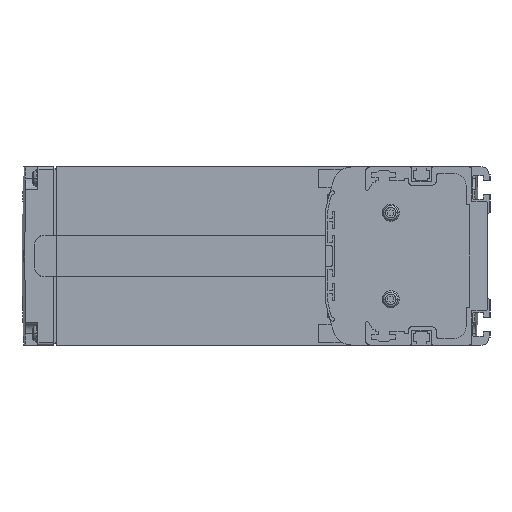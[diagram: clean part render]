
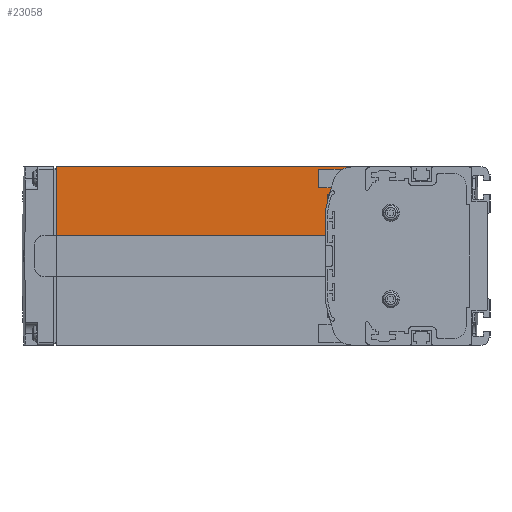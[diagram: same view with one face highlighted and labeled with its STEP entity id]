
A CAD part, left-side view. The second image highlights one B-rep face of the part: STEP entity #23058.
In plain terms, the highlighted planar face has unit normal (-1, 0, 0).
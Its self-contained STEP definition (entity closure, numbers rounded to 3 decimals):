
#1232=DIRECTION('',(0.,-1.,0.));
#1233=VECTOR('',#1232,0.571);
#1234=CARTESIAN_POINT('',(3.,71.,27.));
#1235=LINE('',#1234,#1233);
#1244=DIRECTION('',(0.,0.,1.));
#1245=VECTOR('',#1244,2.224);
#1246=CARTESIAN_POINT('',(3.,71.,24.776));
#1247=LINE('',#1246,#1245);
#1264=DIRECTION('',(0.,0.,-1.));
#1265=VECTOR('',#1264,29.9);
#1266=CARTESIAN_POINT('',(3.,190.,39.));
#1267=LINE('',#1266,#1265);
#4679=DIRECTION('',(0.,-1.,0.));
#4680=VECTOR('',#4679,129.245);
#4681=CARTESIAN_POINT('',(3.,190.,39.));
#4682=LINE('',#4681,#4680);
#5957=DIRECTION('',(0.,0.,-1.));
#5958=VECTOR('',#5957,10.723);
#5959=CARTESIAN_POINT('',(3.,72.,19.823));
#5960=LINE('',#5959,#5958);
#5973=CARTESIAN_POINT('',(3.,70.,19.823));
#5974=DIRECTION('',(1.,0.,0.));
#5975=DIRECTION('',(0.,1.,0.));
#5976=AXIS2_PLACEMENT_3D('',#5973,#5974,#5975);
#5982=CARTESIAN_POINT('',(3.,-6.765,6.));
#5983=DIRECTION('',(1.,0.,0.));
#5984=DIRECTION('',(0.,0.984,0.177));
#5985=AXIS2_PLACEMENT_3D('',#5982,#5983,#5984);
#5987=CARTESIAN_POINT('',(3.,-6.765,6.));
#5988=DIRECTION('',(1.,0.,0.));
#5989=DIRECTION('',(0.,0.965,0.263));
#5990=AXIS2_PLACEMENT_3D('',#5987,#5988,#5989);
#5996=CARTESIAN_POINT('',(3.,60.755,31.));
#5997=DIRECTION('',(-1.,0.,0.));
#5998=DIRECTION('',(0.,0.,1.));
#5999=AXIS2_PLACEMENT_3D('',#5996,#5997,#5998);
#10931=DIRECTION('',(0.,-1.,0.));
#10932=VECTOR('',#10931,118.);
#10933=CARTESIAN_POINT('',(3.,190.,9.1));
#10934=LINE('',#10933,#10932);
#17169=CARTESIAN_POINT('',(3.,190.,39.));
#17170=VERTEX_POINT('',#17169);
#17171=CARTESIAN_POINT('',(3.,190.,9.1));
#17172=VERTEX_POINT('',#17171);
#17201=CARTESIAN_POINT('',(3.,71.,27.));
#17203=VERTEX_POINT('',#17201);
#21021=CARTESIAN_POINT('',(3.,70.429,27.));
#21023=VERTEX_POINT('',#21021);
#21030=CARTESIAN_POINT('',(3.,71.,24.776));
#21032=VERTEX_POINT('',#21030);
#21040=CARTESIAN_POINT('',(3.,72.,9.1));
#21041=VERTEX_POINT('',#21040);
#21050=CARTESIAN_POINT('',(3.,72.,19.823));
#21051=CARTESIAN_POINT('',(3.,71.968,20.177));
#21052=VERTEX_POINT('',#21050);
#21053=VERTEX_POINT('',#21051);
#21054=CARTESIAN_POINT('',(3.,68.257,33.778));
#21055=VERTEX_POINT('',#21054);
#21056=CARTESIAN_POINT('',(3.,60.755,39.));
#21057=VERTEX_POINT('',#21056);
#23033=CARTESIAN_POINT('',(3.,105.,24.05));
#23034=DIRECTION('',(1.,0.,0.));
#23035=DIRECTION('',(0.,0.,1.));
#23036=AXIS2_PLACEMENT_3D('',#23033,#23034,#23035);
#23037=PLANE('',#23036);
#23039=ORIENTED_EDGE('',*,*,#23038,.F.);
#23041=ORIENTED_EDGE('',*,*,#23040,.T.);
#23043=ORIENTED_EDGE('',*,*,#23042,.F.);
#23045=ORIENTED_EDGE('',*,*,#23044,.F.);
#23047=ORIENTED_EDGE('',*,*,#23046,.T.);
#23049=ORIENTED_EDGE('',*,*,#23048,.T.);
#23051=ORIENTED_EDGE('',*,*,#23050,.F.);
#23052=ORIENTED_EDGE('',*,*,#22982,.F.);
#23053=ORIENTED_EDGE('',*,*,#23000,.F.);
#23055=ORIENTED_EDGE('',*,*,#23054,.F.);
#23056=EDGE_LOOP('',(#23039,#23041,#23043,#23045,#23047,#23049,#23051,#23052,
#23053,#23055));
#23057=FACE_OUTER_BOUND('',#23056,.F.);
#23058=ADVANCED_FACE('',(#23057),#23037,.F.);
#5977=CIRCLE('',#5976,2.);
#5986=CIRCLE('',#5985,80.);
#5991=CIRCLE('',#5990,80.);
#6000=CIRCLE('',#5999,8.);
#22982=EDGE_CURVE('',#17203,#21023,#1235,.T.);
#23000=EDGE_CURVE('',#21032,#17203,#1247,.T.);
#23038=EDGE_CURVE('',#21052,#21053,#5977,.T.);
#23040=EDGE_CURVE('',#21052,#21041,#5960,.T.);
#23042=EDGE_CURVE('',#17172,#21041,#10934,.T.);
#23044=EDGE_CURVE('',#17170,#17172,#1267,.T.);
#23046=EDGE_CURVE('',#17170,#21057,#4682,.T.);
#23048=EDGE_CURVE('',#21057,#21055,#6000,.T.);
#23050=EDGE_CURVE('',#21023,#21055,#5991,.T.);
#23054=EDGE_CURVE('',#21053,#21032,#5986,.T.);
